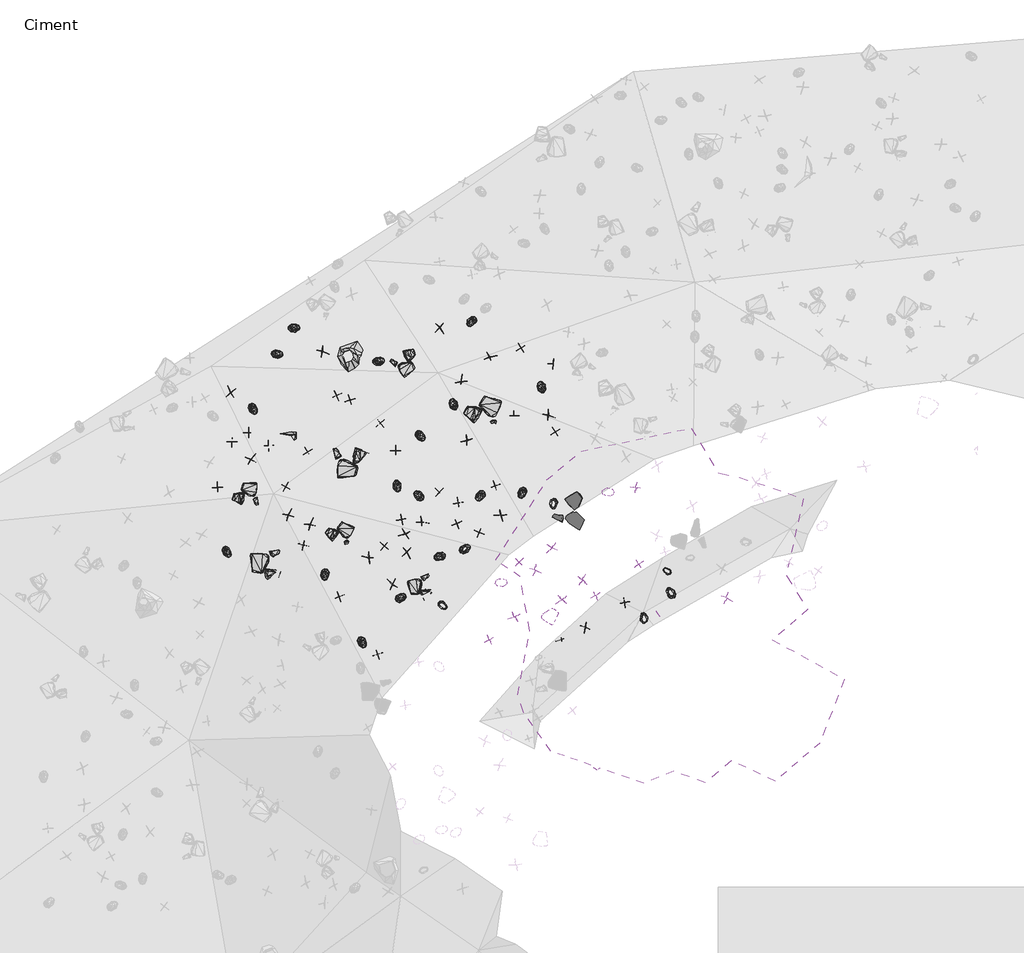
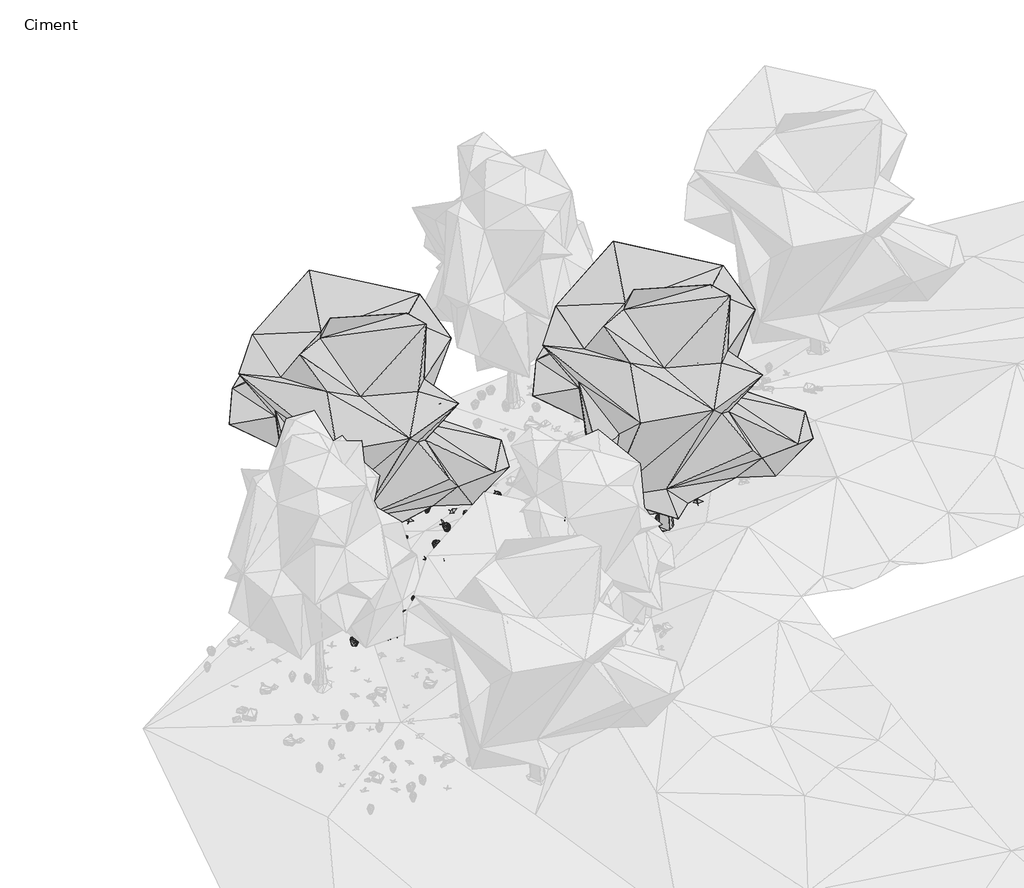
# One storey, part 22 of 30: 90 geographic elements.
"""IFC4 building model written with IfcOpenShell, lengths in millimetres."""

from ifc_helpers import new_model, si_unit, origin, place, context, project, spatial, transform, mapped, element, save
from components import enscape_assetdefinition_bush_025_fern_enscape_5718bf32, enscape_assetdefinition_bush_054_plant_09_version_2_enscape_7b546a12, enscape_assetdefinition_bush_062_plant_09_version_3_enscape_ccf8c8eb, enscape_assetdefinition_deciduous_tree_029_elm_enscape_e4c49baf, enscape_assetdefinition_stone_013_group_enscape_516da325, enscape_assetdefinition_stone_013_group_enscape_db9b3e91

model = new_model("IFC4")

# Units and contexts
model_context = context("Model", 3, world=origin())
ifc_project = project(units=[si_unit("LENGTHUNIT", "METRE", prefix="MILLI")], contexts=[model_context])

# Site, building, storey
site = spatial("IfcSite", under=ifc_project)
building = spatial("IfcBuilding", under=site)
storey = spatial("IfcBuildingStorey", under=building, Name="Ciment", Elevation=-1500.0)

# Geographic elements
placement = place(None, origin())
enscape_assetdefinition_bush_025_fern_enscape_shape = enscape_assetdefinition_bush_025_fern_enscape_5718bf32(model_context)
element("IfcGeographicElement", 1, ObjectType="Enscape AssetDefinition - Bush 025 Fern : Enscape AssetDefinition - Bush 025 Fern", at=placement, inside=storey, context=model_context, shape_type="MappedRepresentation", body=[
    mapped(enscape_assetdefinition_bush_025_fern_enscape_shape, transform((-11623.2395172, 9358.8418961, -707.8359127), x_axis=(0.7871494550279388, 0.6167623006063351, 0.0), y_axis=(-0.6167623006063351, 0.7871494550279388, 0.0), z_axis=(0.0, 0.0, 1.0))),
])
element("IfcGeographicElement", 2, ObjectType="Enscape AssetDefinition - Bush 025 Fern : Enscape AssetDefinition - Bush 025 Fern", at=placement, inside=storey, context=model_context, shape_type="MappedRepresentation", body=[
    mapped(enscape_assetdefinition_bush_025_fern_enscape_shape, transform((-13404.3035507, 9892.4379349, -1276.2118578), x_axis=(0.020400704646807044, -0.9997918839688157, 0.0), y_axis=(0.9997918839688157, 0.020400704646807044, 0.0), z_axis=(0.0, 0.0, 1.0))),
])
element("IfcGeographicElement", 3, ObjectType="Enscape AssetDefinition - Bush 025 Fern : Enscape AssetDefinition - Bush 025 Fern", at=placement, inside=storey, context=model_context, shape_type="MappedRepresentation", body=[
    mapped(enscape_assetdefinition_bush_025_fern_enscape_shape, transform((-12532.7835083, 8307.6763153, -702.706337), x_axis=(0.5455244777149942, -0.8380948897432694, 0.0), y_axis=(0.8380948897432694, 0.5455244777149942, 0.0), z_axis=(0.0, 0.0, 1.0))),
])
element("IfcGeographicElement", 4, ObjectType="Enscape AssetDefinition - Bush 025 Fern : Enscape AssetDefinition - Bush 025 Fern", at=placement, inside=storey, context=model_context, shape_type="MappedRepresentation", body=[
    mapped(enscape_assetdefinition_bush_025_fern_enscape_shape, transform((-12140.6259537, 14870.059967, -2318.3412552), x_axis=(0.9697920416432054, 0.2439331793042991, 0.0), y_axis=(-0.2439331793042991, 0.9697920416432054, 0.0), z_axis=(0.0, 0.0, 1.0))),
])
element("IfcGeographicElement", 5, ObjectType="Enscape AssetDefinition - Bush 025 Fern : Enscape AssetDefinition - Bush 025 Fern", at=placement, inside=storey, context=model_context, shape_type="MappedRepresentation", body=[
    mapped(enscape_assetdefinition_bush_025_fern_enscape_shape, transform((-6806.4427376, 11827.6500702, -278.975606), x_axis=(-0.9985010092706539, -0.05473330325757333, 0.0), y_axis=(0.05473330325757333, -0.9985010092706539, 0.0), z_axis=(0.0, 0.0, 1.0))),
])
element("IfcGeographicElement", 6, ObjectType="Enscape AssetDefinition - Bush 025 Fern : Enscape AssetDefinition - Bush 025 Fern", at=placement, inside=storey, context=model_context, shape_type="MappedRepresentation", body=[
    mapped(enscape_assetdefinition_bush_025_fern_enscape_shape, transform((-10399.6944427, 13880.8059692, -1689.6409988), x_axis=(-0.44363049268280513, 0.8962097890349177, 0.0), y_axis=(-0.8962097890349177, -0.44363049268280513, 0.0), z_axis=(0.0, 0.0, 1.0))),
])
element("IfcGeographicElement", 7, ObjectType="Enscape AssetDefinition - Bush 025 Fern : Enscape AssetDefinition - Bush 025 Fern", at=placement, inside=storey, context=model_context, shape_type="MappedRepresentation", body=[
    mapped(enscape_assetdefinition_bush_025_fern_enscape_shape, transform((-14111.6456985, 15646.5902328, -2879.7516823), x_axis=(0.9845678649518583, 0.17500319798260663, 0.0), y_axis=(-0.17500319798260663, 0.9845678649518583, 0.0), z_axis=(0.0, 0.0, 1.0))),
])
element("IfcGeographicElement", 8, ObjectType="Enscape AssetDefinition - Bush 025 Fern : Enscape AssetDefinition - Bush 025 Fern", at=placement, inside=storey, context=model_context, shape_type="MappedRepresentation", body=[
    mapped(enscape_assetdefinition_bush_025_fern_enscape_shape, transform((-10731.2736511, 10323.7867355, -698.158741), x_axis=(-0.9178490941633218, -0.3969295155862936, 0.0), y_axis=(0.3969295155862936, -0.9178490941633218, 0.0), z_axis=(0.0, 0.0, 1.0))),
])
element("IfcGeographicElement", 9, ObjectType="Enscape AssetDefinition - Bush 025 Fern : Enscape AssetDefinition - Bush 025 Fern", at=placement, inside=storey, context=model_context, shape_type="MappedRepresentation", body=[
    mapped(enscape_assetdefinition_bush_025_fern_enscape_shape, transform((-15076.6372681, 13752.1305084, -2572.6051331), x_axis=(0.5975183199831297, -0.801855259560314, 0.0), y_axis=(0.801855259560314, 0.5975183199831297, 0.0), z_axis=(0.0, 0.0, 1.0))),
])
element("IfcGeographicElement", 10, ObjectType="Enscape AssetDefinition - Bush 025 Fern : Enscape AssetDefinition - Bush 025 Fern", at=placement, inside=storey, context=model_context, shape_type="MappedRepresentation", body=[
    mapped(enscape_assetdefinition_bush_025_fern_enscape_shape, transform((-9784.4963074, 11732.5811386, -879.3623447), x_axis=(-0.5268737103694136, -0.8499435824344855, 0.0), y_axis=(0.8499435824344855, -0.5268737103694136, 0.0), z_axis=(0.0, 0.0, 1.0))),
])
element("IfcGeographicElement", 11, ObjectType="Enscape AssetDefinition - Bush 025 Fern : Enscape AssetDefinition - Bush 025 Fern", at=placement, inside=storey, context=model_context, shape_type="MappedRepresentation", body=[
    mapped(enscape_assetdefinition_bush_025_fern_enscape_shape, transform((-10649.2118835, 9173.6955643, -420.8058119), x_axis=(0.8221110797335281, -0.5693271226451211, 0.0), y_axis=(0.5693271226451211, 0.8221110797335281, 0.0), z_axis=(0.0, 0.0, 1.0))),
])
element("IfcGeographicElement", 12, ObjectType="Enscape AssetDefinition - Bush 025 Fern : Enscape AssetDefinition - Bush 025 Fern", at=placement, inside=storey, context=model_context, shape_type="MappedRepresentation", body=[
    mapped(enscape_assetdefinition_bush_025_fern_enscape_shape, transform((-8072.7367401, 11548.9196777, -450.1718283), x_axis=(-0.0677645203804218, -0.9977013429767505, 0.0), y_axis=(0.9977013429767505, -0.0677645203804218, 0.0), z_axis=(0.0, 0.0, 1.0))),
])
element("IfcGeographicElement", 13, ObjectType="Enscape AssetDefinition - Bush 025 Fern : Enscape AssetDefinition - Bush 025 Fern", at=placement, inside=storey, context=model_context, shape_type="MappedRepresentation", body=[
    mapped(enscape_assetdefinition_bush_025_fern_enscape_shape, transform((-11721.3726044, 11952.1360397, -1392.2561407), x_axis=(0.2662780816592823, -0.963896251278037, 0.0), y_axis=(0.963896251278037, 0.2662780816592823, 0.0), z_axis=(0.0, 0.0, 1.0))),
])
element("IfcGeographicElement", 14, ObjectType="Enscape AssetDefinition - Bush 025 Fern : Enscape AssetDefinition - Bush 025 Fern", at=placement, inside=storey, context=model_context, shape_type="MappedRepresentation", body=[
    mapped(enscape_assetdefinition_bush_025_fern_enscape_shape, transform((-8805.5791855, 11800.0068665, -683.1898689), x_axis=(-0.27834461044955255, -0.9604812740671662, 0.0), y_axis=(0.9604812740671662, -0.27834461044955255, 0.0), z_axis=(0.0, 0.0, 1.0))),
])
element("IfcGeographicElement", 15, ObjectType="Enscape AssetDefinition - Bush 025 Fern : Enscape AssetDefinition - Bush 025 Fern", at=placement, inside=storey, context=model_context, shape_type="MappedRepresentation", body=[
    mapped(enscape_assetdefinition_bush_025_fern_enscape_shape, transform((-9278.9821625, 9708.4846497, -194.4868565), x_axis=(0.984517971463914, 0.17528366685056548, 0.0), y_axis=(-0.17528366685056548, 0.984517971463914, 0.0), z_axis=(0.0, 0.0, 1.0))),
])
element("IfcGeographicElement", 16, ObjectType="Enscape AssetDefinition - Bush 025 Fern : Enscape AssetDefinition - Bush 025 Fern", at=placement, inside=storey, context=model_context, shape_type="MappedRepresentation", body=[
    mapped(enscape_assetdefinition_bush_025_fern_enscape_shape, transform((-9987.4095917, 15797.077179, -2284.1114998), x_axis=(-0.5771092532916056, -0.816666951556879, 0.0), y_axis=(0.816666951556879, -0.5771092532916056, 0.0), z_axis=(0.0, 0.0, 1.0))),
])
element("IfcGeographicElement", 17, ObjectType="Enscape AssetDefinition - Bush 025 Fern : Enscape AssetDefinition - Bush 025 Fern", at=placement, inside=storey, context=model_context, shape_type="MappedRepresentation", body=[
    mapped(enscape_assetdefinition_bush_025_fern_enscape_shape, transform((-11176.6414642, 13123.7602234, -1632.1581602), x_axis=(0.7643806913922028, -0.6447651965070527, 0.0), y_axis=(0.6447651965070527, 0.7643806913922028, 0.0), z_axis=(0.0, 0.0, 1.0))),
])
element("IfcGeographicElement", 18, ObjectType="Enscape AssetDefinition - Bush 025 Fern : Enscape AssetDefinition - Bush 025 Fern", at=placement, inside=storey, context=model_context, shape_type="MappedRepresentation", body=[
    mapped(enscape_assetdefinition_bush_025_fern_enscape_shape, transform((-10124.7034073, 10499.0758896, -584.2587948), x_axis=(0.7838898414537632, 0.6208999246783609, 0.0), y_axis=(-0.6208999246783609, 0.7838898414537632, 0.0), z_axis=(0.0, 0.0, 1.0))),
])
element("IfcGeographicElement", 19, ObjectType="Enscape AssetDefinition - Bush 025 Fern : Enscape AssetDefinition - Bush 025 Fern", at=placement, inside=storey, context=model_context, shape_type="MappedRepresentation", body=[
    mapped(enscape_assetdefinition_bush_025_fern_enscape_shape, transform((-5332.5538635, 9477.3674011, -480.2684784), x_axis=(-0.6175896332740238, 0.7865005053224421, 0.0), y_axis=(-0.7865005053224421, -0.6175896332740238, 0.0), z_axis=(0.0, 0.0, 1.0))),
])
element("IfcGeographicElement", 20, ObjectType="Enscape AssetDefinition - Bush 025 Fern : Enscape AssetDefinition - Bush 025 Fern", at=placement, inside=storey, context=model_context, shape_type="MappedRepresentation", body=[
    mapped(enscape_assetdefinition_bush_025_fern_enscape_shape, transform((-14505.0134659, 15036.8518829, -2790.8797264), x_axis=(0.9998867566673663, -0.015049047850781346, 0.0), y_axis=(0.015049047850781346, 0.9998867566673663, 0.0), z_axis=(0.0, 0.0, 1.0))),
])
element("IfcGeographicElement", 21, ObjectType="Enscape AssetDefinition - Bush 025 Fern : Enscape AssetDefinition - Bush 025 Fern", at=placement, inside=storey, context=model_context, shape_type="MappedRepresentation", body=[
    mapped(enscape_assetdefinition_bush_025_fern_enscape_shape, transform((-11212.8200531, 11744.6994781, -1210.9348774), x_axis=(-0.7637776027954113, 0.6454794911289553, 0.0), y_axis=(-0.6454794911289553, -0.7637776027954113, 0.0), z_axis=(0.0, 0.0, 1.0))),
])
element("IfcGeographicElement", 22, ObjectType="Enscape AssetDefinition - Bush 025 Fern : Enscape AssetDefinition - Bush 025 Fern", at=placement, inside=storey, context=model_context, shape_type="MappedRepresentation", body=[
    mapped(enscape_assetdefinition_bush_025_fern_enscape_shape, transform((-5958.0860138, 8891.5090561, -443.1254864), x_axis=(-0.15644897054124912, 0.9876860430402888, 0.0), y_axis=(-0.9876860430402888, -0.15644897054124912, 0.0), z_axis=(0.0, 0.0, 1.0))),
])
element("IfcGeographicElement", 23, ObjectType="Enscape AssetDefinition - Bush 025 Fern : Enscape AssetDefinition - Bush 025 Fern", at=placement, inside=storey, context=model_context, shape_type="MappedRepresentation", body=[
    mapped(enscape_assetdefinition_bush_025_fern_enscape_shape, transform((-15686.4681244, 10418.2548523, -2076.5919685), x_axis=(0.6441342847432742, -0.7649124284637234, 0.0), y_axis=(0.7649124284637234, 0.6441342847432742, 0.0), z_axis=(0.0, 0.0, 1.0))),
])
element("IfcGeographicElement", 24, ObjectType="Enscape AssetDefinition - Bush 025 Fern : Enscape AssetDefinition - Bush 025 Fern", at=placement, inside=storey, context=model_context, shape_type="MappedRepresentation", body=[
    mapped(enscape_assetdefinition_bush_025_fern_enscape_shape, transform((-8346.0235596, 14280.7025909, -1472.7811813), x_axis=(-0.39227101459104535, 0.9198496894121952, 0.0), y_axis=(-0.9198496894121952, -0.39227101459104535, 0.0), z_axis=(0.0, 0.0, 1.0))),
])
element("IfcGeographicElement", 25, ObjectType="Enscape AssetDefinition - Bush 025 Fern : Enscape AssetDefinition - Bush 025 Fern", at=placement, inside=storey, context=model_context, shape_type="MappedRepresentation", body=[
    mapped(enscape_assetdefinition_bush_025_fern_enscape_shape, transform((-5424.3183136, 9984.7536087, -371.0013628), x_axis=(-0.869229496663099, 0.494408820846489, 0.0), y_axis=(-0.494408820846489, -0.869229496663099, 0.0), z_axis=(0.0, 0.0, 1.0))),
])
enscape_assetdefinition_bush_054_plant_09_version_2_enscape_shape = enscape_assetdefinition_bush_054_plant_09_version_2_enscape_7b546a12(model_context)
element("IfcGeographicElement", 26, ObjectType="Enscape AssetDefinition - Bush 054 Plant 09, Version 2 : Enscape AssetDefinition - Bush 054 Plant 09, Version 2", at=placement, inside=storey, context=model_context, shape_type="MappedRepresentation", body=[
    mapped(enscape_assetdefinition_bush_054_plant_09_version_2_enscape_shape, transform((-8032.0911407, 13225.6536484, -986.359477), x_axis=(0.5695750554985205, -0.8219393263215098, 0.0), y_axis=(0.8219393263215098, 0.5695750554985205, 0.0), z_axis=(0.0, 0.0, 1.0))),
])
element("IfcGeographicElement", 27, ObjectType="Enscape AssetDefinition - Bush 054 Plant 09, Version 2 : Enscape AssetDefinition - Bush 054 Plant 09, Version 2", at=placement, inside=storey, context=model_context, shape_type="MappedRepresentation", body=[
    mapped(enscape_assetdefinition_bush_054_plant_09_version_2_enscape_shape, transform((-8873.3654022, 10189.4645691, -199.4979382), x_axis=(0.7364987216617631, -0.676438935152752, 0.0), y_axis=(0.676438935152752, 0.7364987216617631, 0.0), z_axis=(0.0, 0.0, 1.0))),
])
element("IfcGeographicElement", 28, ObjectType="Enscape AssetDefinition - Bush 054 Plant 09, Version 2 : Enscape AssetDefinition - Bush 054 Plant 09, Version 2", at=placement, inside=storey, context=model_context, shape_type="MappedRepresentation", body=[
    mapped(enscape_assetdefinition_bush_054_plant_09_version_2_enscape_shape, transform((-6410.2954865, 9254.4679642, -394.893527), x_axis=(-0.9769643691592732, -0.2134024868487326, 0.0), y_axis=(0.2134024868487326, -0.9769643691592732, 0.0), z_axis=(0.0, 0.0, 1.0))),
])
element("IfcGeographicElement", 29, ObjectType="Enscape AssetDefinition - Bush 054 Plant 09, Version 2 : Enscape AssetDefinition - Bush 054 Plant 09, Version 2", at=placement, inside=storey, context=model_context, shape_type="MappedRepresentation", body=[
    mapped(enscape_assetdefinition_bush_054_plant_09_version_2_enscape_shape, transform((-7085.7658386, 9411.7889404, -270.9882259), x_axis=(-0.518183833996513, 0.8552692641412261, 0.0), y_axis=(-0.8552692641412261, -0.518183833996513, 0.0), z_axis=(0.0, 0.0, 1.0))),
])
element("IfcGeographicElement", 30, ObjectType="Enscape AssetDefinition - Bush 054 Plant 09, Version 2 : Enscape AssetDefinition - Bush 054 Plant 09, Version 2", at=placement, inside=storey, context=model_context, shape_type="MappedRepresentation", body=[
    mapped(enscape_assetdefinition_bush_054_plant_09_version_2_enscape_shape, transform((-13066.5893555, 9387.2518539, -1078.2823563), x_axis=(-0.9175556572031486, -0.3976073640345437, 0.0), y_axis=(0.3976073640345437, -0.9175556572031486, 0.0), z_axis=(0.0, 0.0, 1.0))),
])
element("IfcGeographicElement", 31, ObjectType="Enscape AssetDefinition - Bush 054 Plant 09, Version 2 : Enscape AssetDefinition - Bush 054 Plant 09, Version 2", at=placement, inside=storey, context=model_context, shape_type="MappedRepresentation", body=[
    mapped(enscape_assetdefinition_bush_054_plant_09_version_2_enscape_shape, transform((-11754.573822, 12791.5992737, -1661.3378525), x_axis=(0.05367606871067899, -0.9985584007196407, 0.0), y_axis=(0.9985584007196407, 0.05367606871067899, 0.0), z_axis=(0.0, 0.0, 1.0))),
])
element("IfcGeographicElement", 32, ObjectType="Enscape AssetDefinition - Bush 054 Plant 09, Version 2 : Enscape AssetDefinition - Bush 054 Plant 09, Version 2", at=placement, inside=storey, context=model_context, shape_type="MappedRepresentation", body=[
    mapped(enscape_assetdefinition_bush_054_plant_09_version_2_enscape_shape, transform((-13807.8613281, 12759.5357895, -2097.0907211), x_axis=(0.5696065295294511, -0.8219175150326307, 0.0), y_axis=(0.8219175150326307, 0.5696065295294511, 0.0), z_axis=(0.0, 0.0, 1.0))),
])
element("IfcGeographicElement", 33, ObjectType="Enscape AssetDefinition - Bush 054 Plant 09, Version 2 : Enscape AssetDefinition - Bush 054 Plant 09, Version 2", at=placement, inside=storey, context=model_context, shape_type="MappedRepresentation", body=[
    mapped(enscape_assetdefinition_bush_054_plant_09_version_2_enscape_shape, transform((-14712.4032974, 12910.3298187, -2298.7203598), x_axis=(-0.9928047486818, -0.11974444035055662, 0.0), y_axis=(0.11974444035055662, -0.9928047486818, 0.0), z_axis=(0.0, 0.0, 1.0))),
])
element("IfcGeographicElement", 34, ObjectType="Enscape AssetDefinition - Bush 054 Plant 09, Version 2 : Enscape AssetDefinition - Bush 054 Plant 09, Version 2", at=placement, inside=storey, context=model_context, shape_type="MappedRepresentation", body=[
    mapped(enscape_assetdefinition_bush_054_plant_09_version_2_enscape_shape, transform((-6085.0353241, 10145.0204849, -257.614851), x_axis=(0.5991687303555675, -0.8006227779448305, 0.0), y_axis=(0.8006227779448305, 0.5991687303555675, 0.0), z_axis=(0.0, 0.0, 1.0))),
])
element("IfcGeographicElement", 35, ObjectType="Enscape AssetDefinition - Bush 054 Plant 09, Version 2 : Enscape AssetDefinition - Bush 054 Plant 09, Version 2", at=placement, inside=storey, context=model_context, shape_type="MappedRepresentation", body=[
    mapped(enscape_assetdefinition_bush_054_plant_09_version_2_enscape_shape, transform((-13897.1223831, 10583.9700699, -1554.8539162), x_axis=(0.18199419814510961, 0.9832996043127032, 0.0), y_axis=(-0.9832996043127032, 0.18199419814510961, 0.0), z_axis=(0.0, 0.0, 1.0))),
])
element("IfcGeographicElement", 36, ObjectType="Enscape AssetDefinition - Bush 054 Plant 09, Version 2 : Enscape AssetDefinition - Bush 054 Plant 09, Version 2", at=placement, inside=storey, context=model_context, shape_type="MappedRepresentation", body=[
    mapped(enscape_assetdefinition_bush_054_plant_09_version_2_enscape_shape, transform((-9566.9975281, 8375.0600815, -22.922039), x_axis=(0.8558878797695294, 0.5171614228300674, 0.0), y_axis=(-0.5171614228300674, 0.8558878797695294, 0.0), z_axis=(0.0, 0.0, 1.0))),
])
element("IfcGeographicElement", 37, ObjectType="Enscape AssetDefinition - Bush 054 Plant 09, Version 2 : Enscape AssetDefinition - Bush 054 Plant 09, Version 2", at=placement, inside=storey, context=model_context, shape_type="MappedRepresentation", body=[
    mapped(enscape_assetdefinition_bush_054_plant_09_version_2_enscape_shape, transform((-8985.3954315, 13606.8429947, -1307.2004318), x_axis=(-0.9946704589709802, -0.10310517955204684, 0.0), y_axis=(0.10310517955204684, -0.9946704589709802, 0.0), z_axis=(0.0, 0.0, 1.0))),
])
element("IfcGeographicElement", 38, ObjectType="Enscape AssetDefinition - Bush 054 Plant 09, Version 2 : Enscape AssetDefinition - Bush 054 Plant 09, Version 2", at=placement, inside=storey, context=model_context, shape_type="MappedRepresentation", body=[
    mapped(enscape_assetdefinition_bush_054_plant_09_version_2_enscape_shape, transform((-9429.6512604, 11973.780632, -873.0500937), x_axis=(-0.9267511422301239, -0.37567581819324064, 0.0), y_axis=(0.37567581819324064, -0.9267511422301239, 0.0), z_axis=(0.0, 0.0, 1.0))),
])
element("IfcGeographicElement", 39, ObjectType="Enscape AssetDefinition - Bush 054 Plant 09, Version 2 : Enscape AssetDefinition - Bush 054 Plant 09, Version 2", at=placement, inside=storey, context=model_context, shape_type="MappedRepresentation", body=[
    mapped(enscape_assetdefinition_bush_054_plant_09_version_2_enscape_shape, transform((-11612.7405167, 11177.4091721, -1126.0257959), x_axis=(0.975066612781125, 0.22191237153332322, 0.0), y_axis=(-0.22191237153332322, 0.975066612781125, 0.0), z_axis=(0.0, 0.0, 1.0))),
])
element("IfcGeographicElement", 40, ObjectType="Enscape AssetDefinition - Bush 054 Plant 09, Version 2 : Enscape AssetDefinition - Bush 054 Plant 09, Version 2", at=placement, inside=storey, context=model_context, shape_type="MappedRepresentation", body=[
    mapped(enscape_assetdefinition_bush_054_plant_09_version_2_enscape_shape, transform((-6152.4219513, 11925.4255295, -175.5553484), x_axis=(0.9967495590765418, -0.08056250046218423, 0.0), y_axis=(0.08056250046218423, 0.9967495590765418, 0.0), z_axis=(0.0, 0.0, 1.0))),
])
element("IfcGeographicElement", 41, ObjectType="Enscape AssetDefinition - Bush 054 Plant 09, Version 2 : Enscape AssetDefinition - Bush 054 Plant 09, Version 2", at=placement, inside=storey, context=model_context, shape_type="MappedRepresentation", body=[
    mapped(enscape_assetdefinition_bush_054_plant_09_version_2_enscape_shape, transform((-12821.8898773, 13973.4287262, -2217.3304558), x_axis=(0.33317064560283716, -0.9428665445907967, 0.0), y_axis=(0.9428665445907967, 0.33317064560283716, 0.0), z_axis=(0.0, 0.0, 1.0))),
])
element("IfcGeographicElement", 42, ObjectType="Enscape AssetDefinition - Bush 054 Plant 09, Version 2 : Enscape AssetDefinition - Bush 054 Plant 09, Version 2", at=placement, inside=storey, context=model_context, shape_type="MappedRepresentation", body=[
    mapped(enscape_assetdefinition_bush_054_plant_09_version_2_enscape_shape, transform((-15183.5889816, 13205.4004669, -2457.1681023), x_axis=(0.9978276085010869, 0.06587915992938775, 0.0), y_axis=(-0.06587915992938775, 0.9978276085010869, 0.0), z_axis=(0.0, 0.0, 1.0))),
])
element("IfcGeographicElement", 43, ObjectType="Enscape AssetDefinition - Bush 054 Plant 09, Version 2 : Enscape AssetDefinition - Bush 054 Plant 09, Version 2", at=placement, inside=storey, context=model_context, shape_type="MappedRepresentation", body=[
    mapped(enscape_assetdefinition_bush_054_plant_09_version_2_enscape_shape, transform((-8083.6658478, 14799.4785309, -1663.4227037), x_axis=(0.9997555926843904, -0.022107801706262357, 0.0), y_axis=(0.022107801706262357, 0.9997555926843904, 0.0), z_axis=(0.0, 0.0, 1.0))),
])
element("IfcGeographicElement", 44, ObjectType="Enscape AssetDefinition - Bush 054 Plant 09, Version 2 : Enscape AssetDefinition - Bush 054 Plant 09, Version 2", at=placement, inside=storey, context=model_context, shape_type="MappedRepresentation", body=[
    mapped(enscape_assetdefinition_bush_054_plant_09_version_2_enscape_shape, transform((-12102.9777527, 13431.1065674, -1940.4779673), x_axis=(-0.6971126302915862, 0.7169616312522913, 0.0), y_axis=(-0.7169616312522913, -0.6971126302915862, 0.0), z_axis=(0.0, 0.0, 1.0))),
])
element("IfcGeographicElement", 45, ObjectType="Enscape AssetDefinition - Bush 054 Plant 09, Version 2 : Enscape AssetDefinition - Bush 054 Plant 09, Version 2", at=placement, inside=storey, context=model_context, shape_type="MappedRepresentation", body=[
    mapped(enscape_assetdefinition_bush_054_plant_09_version_2_enscape_shape, transform((-10296.7224121, 11575.761795, -948.0737448), x_axis=(0.1920380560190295, -0.9813874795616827, 0.0), y_axis=(0.9813874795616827, 0.1920380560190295, 0.0), z_axis=(0.0, 0.0, 1.0))),
])
element("IfcGeographicElement", 46, ObjectType="Enscape AssetDefinition - Bush 054 Plant 09, Version 2 : Enscape AssetDefinition - Bush 054 Plant 09, Version 2", at=placement, inside=storey, context=model_context, shape_type="MappedRepresentation", body=[
    mapped(enscape_assetdefinition_bush_054_plant_09_version_2_enscape_shape, transform((-12162.6729965, 8036.0870361, -548.733592), x_axis=(-0.36107922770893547, 0.9325351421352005, 0.0), y_axis=(-0.9325351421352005, -0.36107922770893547, 0.0), z_axis=(0.0, 0.0, 1.0))),
])
element("IfcGeographicElement", 47, ObjectType="Enscape AssetDefinition - Bush 054 Plant 09, Version 2 : Enscape AssetDefinition - Bush 054 Plant 09, Version 2", at=placement, inside=storey, context=model_context, shape_type="MappedRepresentation", body=[
    mapped(enscape_assetdefinition_bush_054_plant_09_version_2_enscape_shape, transform((-10315.3858185, 11086.7395401, -800.0451326), x_axis=(-0.4335650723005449, 0.9011222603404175, 0.0), y_axis=(-0.9011222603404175, -0.4335650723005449, 0.0), z_axis=(0.0, 0.0, 1.0))),
])
element("IfcGeographicElement", 48, ObjectType="Enscape AssetDefinition - Bush 054 Plant 09, Version 2 : Enscape AssetDefinition - Bush 054 Plant 09, Version 2", at=placement, inside=storey, context=model_context, shape_type="MappedRepresentation", body=[
    mapped(enscape_assetdefinition_bush_054_plant_09_version_2_enscape_shape, transform((-15910.3746414, 11935.5773926, -2231.8134308), x_axis=(0.08738619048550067, -0.9961745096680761, 0.0), y_axis=(0.9961745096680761, 0.08738619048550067, 0.0), z_axis=(0.0, 0.0, 1.0))),
])
element("IfcGeographicElement", 49, ObjectType="Enscape AssetDefinition - Bush 054 Plant 09, Version 2 : Enscape AssetDefinition - Bush 054 Plant 09, Version 2", at=placement, inside=storey, context=model_context, shape_type="MappedRepresentation", body=[
    mapped(enscape_assetdefinition_bush_054_plant_09_version_2_enscape_shape, transform((-14310.1320267, 11946.8002319, -1984.7115278), x_axis=(-0.9038991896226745, 0.4277455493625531, 0.0), y_axis=(-0.4277455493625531, -0.9038991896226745, 0.0), z_axis=(0.0, 0.0, 1.0))),
])
element("IfcGeographicElement", 50, ObjectType="Enscape AssetDefinition - Bush 054 Plant 09, Version 2 : Enscape AssetDefinition - Bush 054 Plant 09, Version 2", at=placement, inside=storey, context=model_context, shape_type="MappedRepresentation", body=[
    mapped(enscape_assetdefinition_bush_054_plant_09_version_2_enscape_shape, transform((-15564.6905899, 12990.986824, -2460.4482651), x_axis=(-0.03313064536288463, 0.9994510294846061, 0.0), y_axis=(-0.9994510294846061, -0.03313064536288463, 0.0), z_axis=(0.0, 0.0, 1.0))),
])
element("IfcGeographicElement", 51, ObjectType="Enscape AssetDefinition - Bush 054 Plant 09, Version 2 : Enscape AssetDefinition - Bush 054 Plant 09, Version 2", at=placement, inside=storey, context=model_context, shape_type="MappedRepresentation", body=[
    mapped(enscape_assetdefinition_bush_054_plant_09_version_2_enscape_shape, transform((-12012.9356384, 10556.6320419, -1073.4386444), x_axis=(0.6244074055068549, 0.7810988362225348, 0.0), y_axis=(-0.7810988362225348, 0.6244074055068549, 0.0), z_axis=(0.0, 0.0, 1.0))),
])
element("IfcGeographicElement", 52, ObjectType="Enscape AssetDefinition - Bush 054 Plant 09, Version 2 : Enscape AssetDefinition - Bush 054 Plant 09, Version 2", at=placement, inside=storey, context=model_context, shape_type="MappedRepresentation", body=[
    mapped(enscape_assetdefinition_bush_054_plant_09_version_2_enscape_shape, transform((-13125.4806519, 14078.3643723, -2298.4051704), x_axis=(-0.8905151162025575, -0.4549536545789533, 0.0), y_axis=(0.4549536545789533, -0.8905151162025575, 0.0), z_axis=(0.0, 0.0, 1.0))),
])
element("IfcGeographicElement", 53, ObjectType="Enscape AssetDefinition - Bush 054 Plant 09, Version 2 : Enscape AssetDefinition - Bush 054 Plant 09, Version 2", at=placement, inside=storey, context=model_context, shape_type="MappedRepresentation", body=[
    mapped(enscape_assetdefinition_bush_054_plant_09_version_2_enscape_shape, transform((-8827.3715973, 15177.3509979, -1949.8708248), x_axis=(0.8294199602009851, 0.558625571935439, 0.0), y_axis=(-0.558625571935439, 0.8294199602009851, 0.0), z_axis=(0.0, 0.0, 1.0))),
])
element("IfcGeographicElement", 54, ObjectType="Enscape AssetDefinition - Bush 054 Plant 09, Version 2 : Enscape AssetDefinition - Bush 054 Plant 09, Version 2", at=placement, inside=storey, context=model_context, shape_type="MappedRepresentation", body=[
    mapped(enscape_assetdefinition_bush_054_plant_09_version_2_enscape_shape, transform((-9799.0846634, 10876.2044907, -615.981102), x_axis=(0.31867003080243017, 0.9478657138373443, 0.0), y_axis=(-0.9478657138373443, 0.31867003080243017, 0.0), z_axis=(0.0, 0.0, 1.0))),
])
element("IfcGeographicElement", 55, ObjectType="Enscape AssetDefinition - Bush 054 Plant 09, Version 2 : Enscape AssetDefinition - Bush 054 Plant 09, Version 2", at=placement, inside=storey, context=model_context, shape_type="MappedRepresentation", body=[
    mapped(enscape_assetdefinition_bush_054_plant_09_version_2_enscape_shape, transform((-10735.3134155, 11819.4169998, -1124.6192455), x_axis=(0.765638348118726, -0.6432712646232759, 0.0), y_axis=(0.6432712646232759, 0.765638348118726, 0.0), z_axis=(0.0, 0.0, 1.0))),
])
enscape_assetdefinition_bush_062_plant_09_version_3_enscape_shape = enscape_assetdefinition_bush_062_plant_09_version_3_enscape_ccf8c8eb(model_context)
element("IfcGeographicElement", 56, ObjectType="Enscape AssetDefinition - Bush 062 Plant 09, Version 3 : Enscape AssetDefinition - Bush 062 Plant 09, Version 3", at=placement, inside=storey, context=model_context, shape_type="MappedRepresentation", body=[
    mapped(enscape_assetdefinition_bush_062_plant_09_version_3_enscape_shape, transform((-11535.8552933, 10842.3442841, -1016.8462992), x_axis=(-0.6231744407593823, 0.782082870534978, 0.0), y_axis=(-0.782082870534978, -0.6231744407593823, 0.0), z_axis=(0.0, 0.0, 1.0))),
])
element("IfcGeographicElement", 57, ObjectType="Enscape AssetDefinition - Bush 062 Plant 09, Version 3 : Enscape AssetDefinition - Bush 062 Plant 09, Version 3", at=placement, inside=storey, context=model_context, shape_type="MappedRepresentation", body=[
    mapped(enscape_assetdefinition_bush_062_plant_09_version_3_enscape_shape, transform((-10087.7017975, 13010.8480453, -1347.0803499), x_axis=(-0.9421122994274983, -0.33529750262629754, 0.0), y_axis=(0.33529750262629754, -0.9421122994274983, 0.0), z_axis=(0.0, 0.0, 1.0))),
])
element("IfcGeographicElement", 58, ObjectType="Enscape AssetDefinition - Bush 062 Plant 09, Version 3 : Enscape AssetDefinition - Bush 062 Plant 09, Version 3", at=placement, inside=storey, context=model_context, shape_type="MappedRepresentation", body=[
    mapped(enscape_assetdefinition_bush_062_plant_09_version_3_enscape_shape, transform((-7876.3427734, 9300.6334305, -172.8198528), x_axis=(-0.7948203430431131, 0.6068448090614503, 0.0), y_axis=(-0.6068448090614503, -0.7948203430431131, 0.0), z_axis=(0.0, 0.0, 1.0))),
])
element("IfcGeographicElement", 59, ObjectType="Enscape AssetDefinition - Bush 062 Plant 09, Version 3 : Enscape AssetDefinition - Bush 062 Plant 09, Version 3", at=placement, inside=storey, context=model_context, shape_type="MappedRepresentation", body=[
    mapped(enscape_assetdefinition_bush_062_plant_09_version_3_enscape_shape, transform((-8173.1987, 13612.616539, -1146.6441154), x_axis=(0.05557846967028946, -0.9984543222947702, 0.0), y_axis=(0.9984543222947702, 0.05557846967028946, 0.0), z_axis=(0.0, 0.0, 1.0))),
])
element("IfcGeographicElement", 60, ObjectType="Enscape AssetDefinition - Bush 062 Plant 09, Version 3 : Enscape AssetDefinition - Bush 062 Plant 09, Version 3", at=placement, inside=storey, context=model_context, shape_type="MappedRepresentation", body=[
    mapped(enscape_assetdefinition_bush_062_plant_09_version_3_enscape_shape, transform((-9541.5439606, 14973.1960297, -1971.300602), x_axis=(0.5331722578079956, -0.846006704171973, 0.0), y_axis=(0.846006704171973, 0.5331722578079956, 0.0), z_axis=(0.0, 0.0, 1.0))),
])
element("IfcGeographicElement", 61, ObjectType="Enscape AssetDefinition - Bush 062 Plant 09, Version 3 : Enscape AssetDefinition - Bush 062 Plant 09, Version 3", at=placement, inside=storey, context=model_context, shape_type="MappedRepresentation", body=[
    mapped(enscape_assetdefinition_bush_062_plant_09_version_3_enscape_shape, transform((-7384.9983215, 9771.7266083, -166.4487123), x_axis=(-0.40250053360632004, -0.9154197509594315, 0.0), y_axis=(0.9154197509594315, -0.40250053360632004, 0.0), z_axis=(0.0, 0.0, 1.0))),
])
element("IfcGeographicElement", 62, ObjectType="Enscape AssetDefinition - Bush 062 Plant 09, Version 3 : Enscape AssetDefinition - Bush 062 Plant 09, Version 3", at=placement, inside=storey, context=model_context, shape_type="MappedRepresentation", body=[
    mapped(enscape_assetdefinition_bush_062_plant_09_version_3_enscape_shape, transform((-7871.7002869, 8377.8753281, -323.9988089), x_axis=(-0.8811972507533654, -0.4727487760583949, 0.0), y_axis=(0.4727487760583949, -0.8811972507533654, 0.0), z_axis=(0.0, 0.0, 1.0))),
])
element("IfcGeographicElement", 63, ObjectType="Enscape AssetDefinition - Bush 062 Plant 09, Version 3 : Enscape AssetDefinition - Bush 062 Plant 09, Version 3", at=placement, inside=storey, context=model_context, shape_type="MappedRepresentation", body=[
    mapped(enscape_assetdefinition_bush_062_plant_09_version_3_enscape_shape, transform((-8108.8218689, 10516.9792175, -122.4637032), x_axis=(-0.9298389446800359, 0.3679667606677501, 0.0), y_axis=(-0.3679667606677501, -0.9298389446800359, 0.0), z_axis=(0.0, 0.0, 1.0))),
])
element("IfcGeographicElement", 64, ObjectType="Enscape AssetDefinition - Bush 062 Plant 09, Version 3 : Enscape AssetDefinition - Bush 062 Plant 09, Version 3", at=placement, inside=storey, context=model_context, shape_type="MappedRepresentation", body=[
    mapped(enscape_assetdefinition_bush_062_plant_09_version_3_enscape_shape, transform((-13740.187645, 11074.7098923, -1624.7764826), x_axis=(0.9999987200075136, 0.0015999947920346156, 0.0), y_axis=(-0.0015999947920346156, 0.9999987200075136, 0.0), z_axis=(0.0, 0.0, 1.0))),
])
element("IfcGeographicElement", 65, ObjectType="Enscape AssetDefinition - Bush 062 Plant 09, Version 3 : Enscape AssetDefinition - Bush 062 Plant 09, Version 3", at=placement, inside=storey, context=model_context, shape_type="MappedRepresentation", body=[
    mapped(enscape_assetdefinition_bush_062_plant_09_version_3_enscape_shape, transform((-9307.8079224, 11273.1485367, -626.8658638), x_axis=(-0.3551433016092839, 0.9348118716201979, 0.0), y_axis=(-0.9348118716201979, -0.3551433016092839, 0.0), z_axis=(0.0, 0.0, 1.0))),
])
element("IfcGeographicElement", 66, ObjectType="Enscape AssetDefinition - Bush 062 Plant 09, Version 3 : Enscape AssetDefinition - Bush 062 Plant 09, Version 3", at=placement, inside=storey, context=model_context, shape_type="MappedRepresentation", body=[
    mapped(enscape_assetdefinition_bush_062_plant_09_version_3_enscape_shape, transform((-13445.9171295, 15100.8119583, -2615.6463623), x_axis=(-0.02343678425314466, -0.9997253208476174, 0.0), y_axis=(0.9997253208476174, -0.02343678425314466, 0.0), z_axis=(0.0, 0.0, 1.0))),
])
element("IfcGeographicElement", 67, ObjectType="Enscape AssetDefinition - Bush 062 Plant 09, Version 3 : Enscape AssetDefinition - Bush 062 Plant 09, Version 3", at=placement, inside=storey, context=model_context, shape_type="MappedRepresentation", body=[
    mapped(enscape_assetdefinition_bush_062_plant_09_version_3_enscape_shape, transform((-8985.1913452, 8905.7416916, -44.2793369), x_axis=(-0.6183054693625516, 0.7859378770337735, 0.0), y_axis=(-0.7859378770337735, -0.6183054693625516, 0.0), z_axis=(0.0, 0.0, 1.0))),
])
element("IfcGeographicElement", 68, ObjectType="Enscape AssetDefinition - Bush 062 Plant 09, Version 3 : Enscape AssetDefinition - Bush 062 Plant 09, Version 3", at=placement, inside=storey, context=model_context, shape_type="MappedRepresentation", body=[
    mapped(enscape_assetdefinition_bush_062_plant_09_version_3_enscape_shape, transform((-4023.1666565, 9351.184845, -140.2096748), x_axis=(-0.1886528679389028, -0.9820438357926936, 0.0), y_axis=(0.9820438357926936, -0.1886528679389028, 0.0), z_axis=(0.0, 0.0, 1.0))),
])
element("IfcGeographicElement", 69, ObjectType="Enscape AssetDefinition - Bush 062 Plant 09, Version 3 : Enscape AssetDefinition - Bush 062 Plant 09, Version 3", at=placement, inside=storey, context=model_context, shape_type="MappedRepresentation", body=[
    mapped(enscape_assetdefinition_bush_062_plant_09_version_3_enscape_shape, transform((-15604.4969559, 14154.6459198, -2767.8608894), x_axis=(0.703225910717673, 0.7109664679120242, 0.0), y_axis=(-0.7109664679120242, 0.703225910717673, 0.0), z_axis=(0.0, 0.0, 1.0))),
])
element("IfcGeographicElement", 70, ObjectType="Enscape AssetDefinition - Bush 062 Plant 09, Version 3 : Enscape AssetDefinition - Bush 062 Plant 09, Version 3", at=placement, inside=storey, context=model_context, shape_type="MappedRepresentation", body=[
    mapped(enscape_assetdefinition_bush_062_plant_09_version_3_enscape_shape, transform((-12388.2694244, 10290.2841568, -1108.6844206), x_axis=(-0.19556510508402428, 0.9806907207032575, 0.0), y_axis=(-0.9806907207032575, -0.19556510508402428, 0.0), z_axis=(0.0, 0.0, 1.0))),
])
element("IfcGeographicElement", 71, ObjectType="Enscape AssetDefinition - Bush 062 Plant 09, Version 3 : Enscape AssetDefinition - Bush 062 Plant 09, Version 3", at=placement, inside=storey, context=model_context, shape_type="MappedRepresentation", body=[
    mapped(enscape_assetdefinition_bush_062_plant_09_version_3_enscape_shape, transform((-11126.4457703, 11122.8246689, -997.4213839), x_axis=(0.23130344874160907, -0.9728816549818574, 0.0), y_axis=(0.9728816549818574, 0.23130344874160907, 0.0), z_axis=(0.0, 0.0, 1.0))),
])
element("IfcGeographicElement", 72, ObjectType="Enscape AssetDefinition - Bush 062 Plant 09, Version 3 : Enscape AssetDefinition - Bush 062 Plant 09, Version 3", at=placement, inside=storey, context=model_context, shape_type="MappedRepresentation", body=[
    mapped(enscape_assetdefinition_bush_062_plant_09_version_3_enscape_shape, transform((-11482.4466705, 10412.7206802, -907.4993134), x_axis=(-0.651467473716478, -0.758676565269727, 0.0), y_axis=(0.758676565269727, -0.651467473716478, 0.0), z_axis=(0.0, 0.0, 1.0))),
])
element("IfcGeographicElement", 73, ObjectType="Enscape AssetDefinition - Bush 062 Plant 09, Version 3 : Enscape AssetDefinition - Bush 062 Plant 09, Version 3", at=placement, inside=storey, context=model_context, shape_type="MappedRepresentation", body=[
    mapped(enscape_assetdefinition_bush_062_plant_09_version_3_enscape_shape, transform((-7311.7046356, 8670.4282761, -358.6630821), x_axis=(-0.058822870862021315, -0.9982684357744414, 0.0), y_axis=(0.9982684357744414, -0.058822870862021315, 0.0), z_axis=(0.0, 0.0, 1.0))),
])
element("IfcGeographicElement", 74, ObjectType="Enscape AssetDefinition - Bush 062 Plant 09, Version 3 : Enscape AssetDefinition - Bush 062 Plant 09, Version 3", at=placement, inside=storey, context=model_context, shape_type="MappedRepresentation", body=[
    mapped(enscape_assetdefinition_bush_062_plant_09_version_3_enscape_shape, transform((-10225.9235382, 14411.1804962, -1827.9458284), x_axis=(0.9695520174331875, 0.24488545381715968, 0.0), y_axis=(-0.24488545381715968, 0.9695520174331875, 0.0), z_axis=(0.0, 0.0, 1.0))),
])
element("IfcGeographicElement", 75, ObjectType="Enscape AssetDefinition - Bush 062 Plant 09, Version 3 : Enscape AssetDefinition - Bush 062 Plant 09, Version 3", at=placement, inside=storey, context=model_context, shape_type="MappedRepresentation", body=[
    mapped(enscape_assetdefinition_bush_062_plant_09_version_3_enscape_shape, transform((-14248.5990524, 11296.4420319, -1802.5118113), x_axis=(0.9963512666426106, -0.08534725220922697, 0.0), y_axis=(0.08534725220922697, 0.9963512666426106, 0.0), z_axis=(0.0, 0.0, 1.0))),
])
element("IfcGeographicElement", 76, ObjectType="Enscape AssetDefinition - Bush 062 Plant 09, Version 3 : Enscape AssetDefinition - Bush 062 Plant 09, Version 3", at=placement, inside=storey, context=model_context, shape_type="MappedRepresentation", body=[
    mapped(enscape_assetdefinition_bush_062_plant_09_version_3_enscape_shape, transform((-15119.011879, 12593.0261612, -2290.2517319), x_axis=(0.9523878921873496, -0.30488900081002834, 0.0), y_axis=(0.30488900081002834, 0.9523878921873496, 0.0), z_axis=(0.0, 0.0, 1.0))),
])
element("IfcGeographicElement", 77, ObjectType="Enscape AssetDefinition - Bush 062 Plant 09, Version 3 : Enscape AssetDefinition - Bush 062 Plant 09, Version 3", at=placement, inside=storey, context=model_context, shape_type="MappedRepresentation", body=[
    mapped(enscape_assetdefinition_bush_062_plant_09_version_3_enscape_shape, transform((-8486.9632721, 10002.3488998, -60.2661371), x_axis=(-0.1038658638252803, -0.9945913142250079, 0.0), y_axis=(0.9945913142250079, -0.1038658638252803, 0.0), z_axis=(0.0, 0.0, 1.0))),
])
element("IfcGeographicElement", 78, ObjectType="Enscape AssetDefinition - Bush 062 Plant 09, Version 3 : Enscape AssetDefinition - Bush 062 Plant 09, Version 3", at=placement, inside=storey, context=model_context, shape_type="MappedRepresentation", body=[
    mapped(enscape_assetdefinition_bush_062_plant_09_version_3_enscape_shape, transform((-10714.5652771, 15647.4685669, -2317.2705173), x_axis=(-0.5731497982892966, -0.8194506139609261, 0.0), y_axis=(0.8194506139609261, -0.5731497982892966, 0.0), z_axis=(0.0, 0.0, 1.0))),
])
element("IfcGeographicElement", 79, ObjectType="Enscape AssetDefinition - Bush 062 Plant 09, Version 3 : Enscape AssetDefinition - Bush 062 Plant 09, Version 3", at=placement, inside=storey, context=model_context, shape_type="MappedRepresentation", body=[
    mapped(enscape_assetdefinition_bush_062_plant_09_version_3_enscape_shape, transform((-11832.2582245, 9677.8783798, -831.7596912), x_axis=(0.3284252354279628, 0.944529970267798, 0.0), y_axis=(-0.944529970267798, 0.3284252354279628, 0.0), z_axis=(0.0, 0.0, 1.0))),
])
enscape_assetdefinition_deciduous_tree_029_elm_enscape_shape = enscape_assetdefinition_deciduous_tree_029_elm_enscape_e4c49baf(model_context)
element("IfcGeographicElement", 80, ObjectType="Enscape AssetDefinition - Deciduous Tree 029 Elm : Enscape AssetDefinition - Deciduous Tree 029 Elm", at=placement, inside=storey, context=model_context, shape_type="MappedRepresentation", body=[
    mapped(enscape_assetdefinition_deciduous_tree_029_elm_enscape_shape, transform((-5441.9546127, 8878.9482117, -298.5286713), x_axis=(1.0, 0.0, 0.0), y_axis=(0.0, 1.0, 0.0), z_axis=(0.0, 0.0, 1.0))),
])
element("IfcGeographicElement", 81, ObjectType="Enscape AssetDefinition - Deciduous Tree 029 Elm : Enscape AssetDefinition - Deciduous Tree 029 Elm", at=placement, inside=storey, context=model_context, shape_type="MappedRepresentation", body=[
    mapped(enscape_assetdefinition_deciduous_tree_029_elm_enscape_shape, transform((-12819.9653625, 14913.7649536, -2453.0038834), x_axis=(1.0, 0.0, 0.0), y_axis=(0.0, 1.0, 0.0), z_axis=(0.0, 0.0, 1.0))),
])
enscape_assetdefinition_stone_013_group_enscape_shape = enscape_assetdefinition_stone_013_group_enscape_516da325(model_context)
element("IfcGeographicElement", 82, ObjectType="Enscape AssetDefinition - Stone 013 Group : Enscape AssetDefinition - Stone 013 Group", at=placement, inside=storey, context=model_context, shape_type="MappedRepresentation", body=[
    mapped(enscape_assetdefinition_stone_013_group_enscape_shape, transform((-9638.9808655, 13646.8935013, -1455.296278), x_axis=(0.9300169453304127, -0.3675166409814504, 0.0), y_axis=(0.3675166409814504, 0.9300169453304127, 0.0), z_axis=(0.0, 0.0, 1.0))),
])
element("IfcGeographicElement", 83, ObjectType="Enscape AssetDefinition - Stone 013 Group : Enscape AssetDefinition - Stone 013 Group", at=placement, inside=storey, context=model_context, shape_type="MappedRepresentation", body=[
    mapped(enscape_assetdefinition_stone_013_group_enscape_shape, transform((-14727.5714874, 10157.6700211, -1823.4345913), x_axis=(0.009676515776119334, 0.9999531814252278, 0.0), y_axis=(-0.9999531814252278, 0.009676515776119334, 0.0), z_axis=(0.0, 0.0, 1.0))),
])
element("IfcGeographicElement", 84, ObjectType="Enscape AssetDefinition - Stone 013 Group : Enscape AssetDefinition - Stone 013 Group", at=placement, inside=storey, context=model_context, shape_type="MappedRepresentation", body=[
    mapped(enscape_assetdefinition_stone_013_group_enscape_shape, transform((-7675.5981445, 11332.1466446, -297.6826429), x_axis=(-0.6108583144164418, -0.7917399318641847, 0.0), y_axis=(0.7917399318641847, -0.6108583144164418, 0.0), z_axis=(0.0, 0.0, 1.0))),
])
element("IfcGeographicElement", 85, ObjectType="Enscape AssetDefinition - Stone 013 Group : Enscape AssetDefinition - Stone 013 Group", at=placement, inside=storey, context=model_context, shape_type="MappedRepresentation", body=[
    mapped(enscape_assetdefinition_stone_013_group_enscape_shape, transform((-12870.3784943, 12557.7783585, -1844.5868492), x_axis=(-0.9999695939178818, 0.007798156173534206, 0.0), y_axis=(-0.007798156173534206, -0.9999695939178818, 0.0), z_axis=(0.0, 0.0, 1.0))),
])
enscape_assetdefinition_stone_013_group_enscape_2_shape = enscape_assetdefinition_stone_013_group_enscape_db9b3e91(model_context)
element("IfcGeographicElement", 86, ObjectType="Enscape AssetDefinition - Stone 013 Group : Enscape AssetDefinition - Stone 013 Group 2", at=placement, inside=storey, context=model_context, shape_type="MappedRepresentation", body=[
    mapped(enscape_assetdefinition_stone_013_group_enscape_2_shape, transform((-15183.7816238, 11748.1298447, -2076.315403), x_axis=(0.9971318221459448, -0.07568440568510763, 0.0), y_axis=(0.07568440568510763, 0.9971318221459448, 0.0), z_axis=(0.0, 0.0, 1.0))),
])
element("IfcGeographicElement", 87, ObjectType="Enscape AssetDefinition - Stone 013 Group : Enscape AssetDefinition - Stone 013 Group 2", at=placement, inside=storey, context=model_context, shape_type="MappedRepresentation", body=[
    mapped(enscape_assetdefinition_stone_013_group_enscape_2_shape, transform((-11572.9236603, 14844.291687, -2208.6334229), x_axis=(-0.838967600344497, -0.5441813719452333, 0.0), y_axis=(0.5441813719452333, -0.838967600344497, 0.0), z_axis=(0.0, 0.0, 1.0))),
])
element("IfcGeographicElement", 88, ObjectType="Enscape AssetDefinition - Stone 013 Group : Enscape AssetDefinition - Stone 013 Group 2", at=placement, inside=storey, context=model_context, shape_type="MappedRepresentation", body=[
    mapped(enscape_assetdefinition_stone_013_group_enscape_2_shape, transform((-8265.9034729, 9018.1970596, -161.5774632), x_axis=(-0.5108162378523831, -0.8596899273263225, 0.0), y_axis=(0.8596899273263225, -0.5108162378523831, 0.0), z_axis=(0.0, 0.0, 1.0))),
])
element("IfcGeographicElement", 89, ObjectType="Enscape AssetDefinition - Stone 013 Group : Enscape AssetDefinition - Stone 013 Group 2", at=placement, inside=storey, context=model_context, shape_type="MappedRepresentation", body=[
    mapped(enscape_assetdefinition_stone_013_group_enscape_2_shape, transform((-13006.3114166, 10813.3926392, -1381.3308477), x_axis=(0.8787725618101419, -0.47724080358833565, 0.0), y_axis=(0.47724080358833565, 0.8787725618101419, 0.0), z_axis=(0.0, 0.0, 1.0))),
])
element("IfcGeographicElement", 90, ObjectType="Enscape AssetDefinition - Stone 013 Group : Enscape AssetDefinition - Stone 013 Group 2", at=placement, inside=storey, context=model_context, shape_type="MappedRepresentation", body=[
    mapped(enscape_assetdefinition_stone_013_group_enscape_2_shape, transform((-11146.3813782, 9634.5071793, -649.0578651), x_axis=(-0.1849638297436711, 0.9827453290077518, 0.0), y_axis=(-0.9827453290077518, -0.1849638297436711, 0.0), z_axis=(0.0, 0.0, 1.0))),
])

save(model, "model.ifc")
